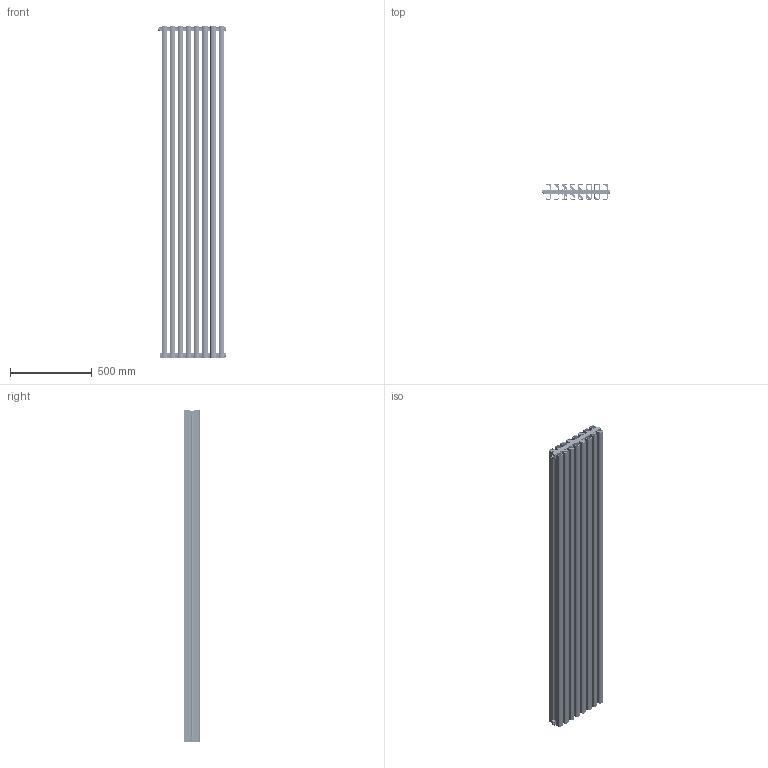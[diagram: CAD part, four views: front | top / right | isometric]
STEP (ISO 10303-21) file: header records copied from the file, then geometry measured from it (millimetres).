
FILE_DESCRIPTION (( 'STEP AP214' ), '1' );
FILE_NAME ('TONALE 2000_8.STEP', '2024-07-22T08:40:01', ( '' ), ( '' ), 'SwSTEP 2.0', 'SolidWorks 2024', '' );
FILE_SCHEMA (( 'AUTOMOTIVE_DESIGN' ));
Length unit declared in the file: millimetre
Products named in the file (12): P3EL00004A_8 elementi CS; Art.011; Art.041; P3EL00004A_8 elementi; Coperchietto; EPC10022D_1000; O-RING 2,4 D16,3; P3EL00002A_2000; TONALE 2000_8; ETV600G_foro Ø 4; Assieme vitone con o_ring
Assembly tree (43 placements, depth 3):
  TONALE 2000_8
    EPC10022D_1000  x8
    Art.011  x3
      Art.011
      Coperchietto
    Art.041
    P3EL00002A_2000  x8
    P3EL00004A_8 elementi CS
    Assieme vitone con o_ring  x16
      ETV600G_foro Ø 4
      O-RING 2,4 D16,3
    P3EL00004A_8 elementi
Bounding box: 416.3 x 95 x 2037 mm (x, y, z)
Volume: 9612912.9 mm3; surface area: 11767942.9 mm2
Topology: 76 solids, 76 shells, 4808 faces, 13251 edges, 8438 vertices
Faces by surface type: plane 2062, cylinder 1996, cone 444, torus 148, bspline 126, sphere 32
Entity records: 33731 total; most frequent: CARTESIAN_POINT 12294, ORIENTED_EDGE 4414, DIRECTION 4381, EDGE_CURVE 2207, AXIS2_PLACEMENT_3D 1556, VERTEX_POINT 1431, LINE 1269, VECTOR 1269
